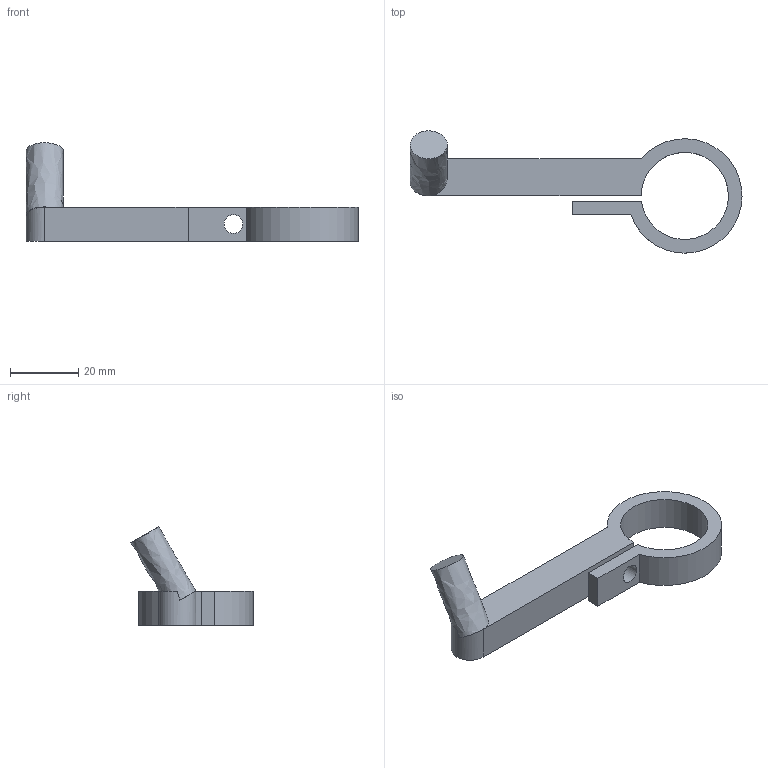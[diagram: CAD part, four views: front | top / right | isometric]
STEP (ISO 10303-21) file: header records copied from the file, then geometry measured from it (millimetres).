
FILE_DESCRIPTION(/* description */ ('','CAx-IF Rec.Pracs.---Representation and Presentation of Product Manufacturing Information (PMI)---4.0---2014-10-13'),/* implementation_level */ '2;1');
FILE_NAME(/* name */ 'CrvTypeSDisplayAdapter.step',/* time_stamp */ '2025-04-20T17:00:04-07:00',/* author */ (''),/* organization */ (''),/* preprocessor_version */ 'ST-DEVELOPER v20',/* originating_system */ 'Autodesk Translation Framework v13.20.0.188',/* authorisation */ '');
FILE_SCHEMA (('AP242_MANAGED_MODEL_BASED_3D_ENGINEERING_MIM_LF { 1 0 10303 442 1 1 4 }'));
Length unit declared in the file: millimetre
Products named in the file (1): Inner Tube
Bounding box: 97.2 x 35.78 x 28.8 mm (x, y, z)
Volume: 12447.2 mm3; surface area: 6508.2 mm2
Topology: 1 solids, 1 shells, 16 faces, 40 edges, 26 vertices
Faces by surface type: plane 10, cylinder 5, bspline 1
Full cylindrical faces by diameter (mm): 5.5 x2
Entity records: 539 total; most frequent: CARTESIAN_POINT 101, DIRECTION 89, ORIENTED_EDGE 80, EDGE_CURVE 40, AXIS2_PLACEMENT_3D 34, VERTEX_POINT 26, LINE 21, VECTOR 21
